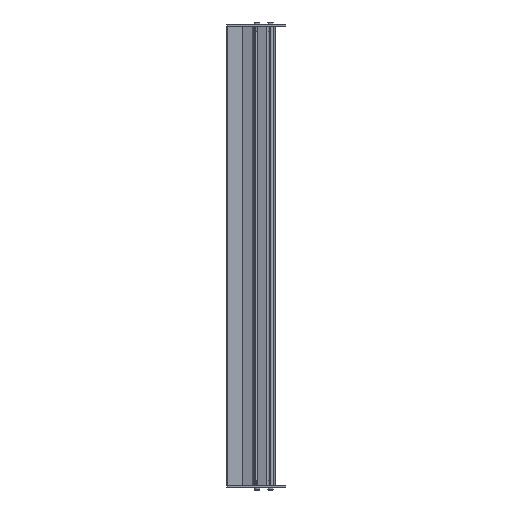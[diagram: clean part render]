
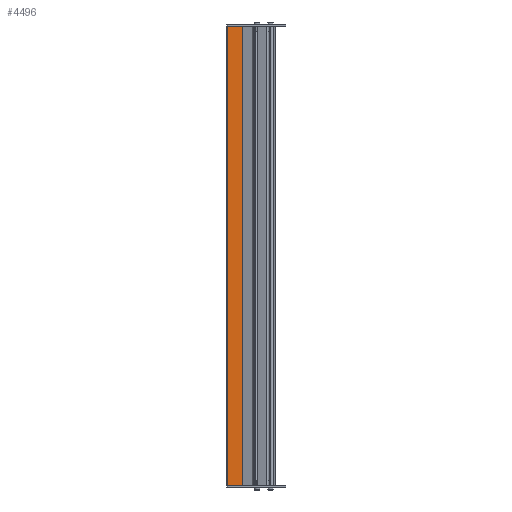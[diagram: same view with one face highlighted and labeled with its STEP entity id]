
A CAD part, left-side view. The second image highlights one B-rep face of the part: STEP entity #4496.
In plain terms, the highlighted planar face has unit normal (-1, 0, 0) as drawn and (1, 0, 0) by its records, which use the part's own axes.
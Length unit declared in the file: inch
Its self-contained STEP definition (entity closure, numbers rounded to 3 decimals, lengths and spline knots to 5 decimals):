
#3554=DIRECTION('',(0.,-1.,0.));
#3555=VECTOR('',#3554,0.88707);
#3556=CARTESIAN_POINT('',(0.048,0.904,-14.118));
#3557=LINE('',#3556,#3555);
#3600=DIRECTION('',(0.,0.,-1.));
#3601=VECTOR('',#3600,28.236);
#3602=CARTESIAN_POINT('',(0.048,0.904,14.118));
#3603=LINE('',#3602,#3601);
#3608=DIRECTION('',(0.,-1.,0.));
#3609=VECTOR('',#3608,0.88707);
#3610=CARTESIAN_POINT('',(0.048,0.904,14.118));
#3611=LINE('',#3610,#3609);
#3616=DIRECTION('',(0.,0.,1.));
#3617=VECTOR('',#3616,28.236);
#3618=CARTESIAN_POINT('',(0.048,0.01693,-14.118));
#3619=LINE('',#3618,#3617);
#4121=CARTESIAN_POINT('',(0.048,0.904,14.118));
#4123=VERTEX_POINT('',#4121);
#4147=CARTESIAN_POINT('',(0.048,0.01693,-14.118));
#4149=VERTEX_POINT('',#4147);
#4180=CARTESIAN_POINT('',(0.048,0.01693,14.118));
#4182=VERTEX_POINT('',#4180);
#4250=CARTESIAN_POINT('',(0.048,0.904,-14.118));
#4251=VERTEX_POINT('',#4250);
#4483=CARTESIAN_POINT('',(0.048,0.,14.118));
#4484=DIRECTION('',(-1.,0.,0.));
#4485=DIRECTION('',(0.,0.,1.));
#4486=AXIS2_PLACEMENT_3D('',#4483,#4484,#4485);
#4487=PLANE('',#4486);
#4488=ORIENTED_EDGE('',*,*,#4396,.T.);
#4490=ORIENTED_EDGE('',*,*,#4489,.T.);
#4492=ORIENTED_EDGE('',*,*,#4491,.F.);
#4493=ORIENTED_EDGE('',*,*,#4476,.T.);
#4494=EDGE_LOOP('',(#4488,#4490,#4492,#4493));
#4495=FACE_OUTER_BOUND('',#4494,.F.);
#4396=EDGE_CURVE('',#4251,#4149,#3557,.T.);
#4476=EDGE_CURVE('',#4123,#4251,#3603,.T.);
#4489=EDGE_CURVE('',#4149,#4182,#3619,.T.);
#4491=EDGE_CURVE('',#4123,#4182,#3611,.T.);
#4496=ADVANCED_FACE('',(#4495),#4487,.F.);
